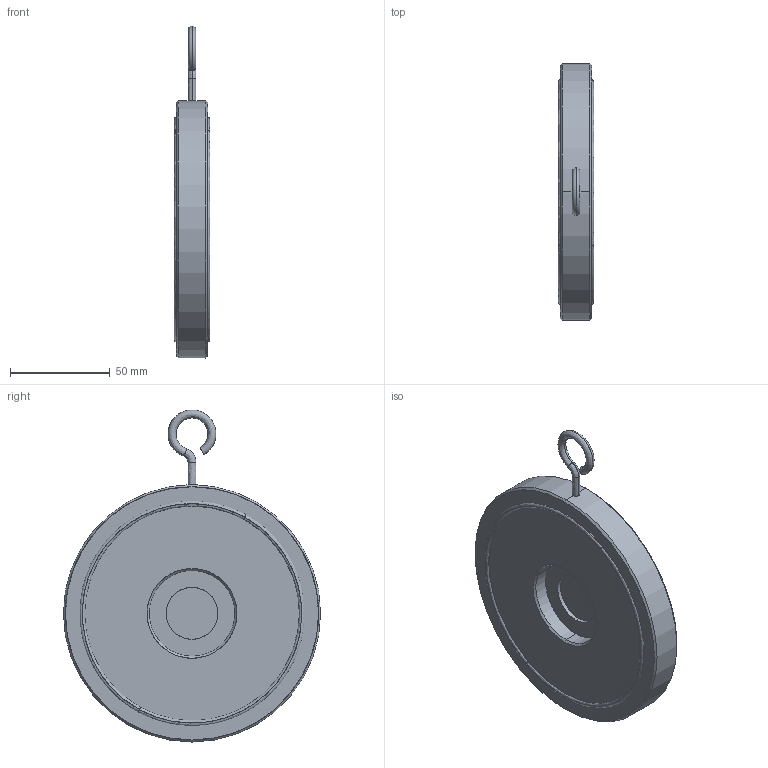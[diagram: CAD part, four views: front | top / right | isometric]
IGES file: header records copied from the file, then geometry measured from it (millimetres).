
Start section: SolidWorks IGES file using analytic representation for surfaces
Global section: file name: C:\Users\Administrator\Desktop\temp\0.IGS; native system: SolidWorks 2015; preprocessor: SolidWorks 2015; author: Administrator; date: 170404.090521; units: millimetre
Bounding box: 18 x 129 x 166.5 mm (x, y, z)
Surface area: 56368.8 mm2 (no closed solid volume)
Topology: 0 solids, 0 shells, 179 faces, 2930 edges, 2928 vertices
Faces by surface type: bspline 109, revolution 70
